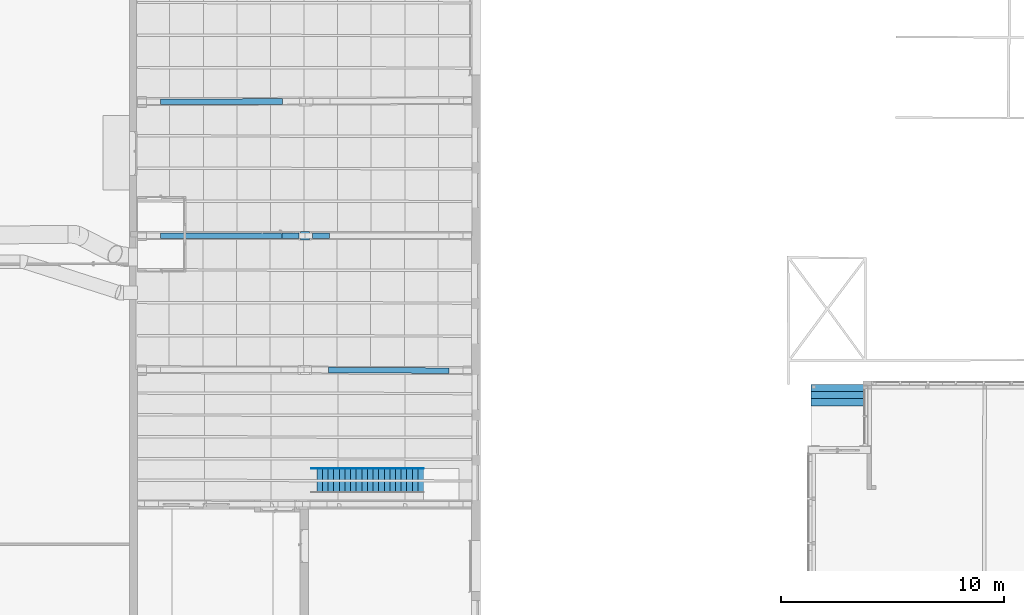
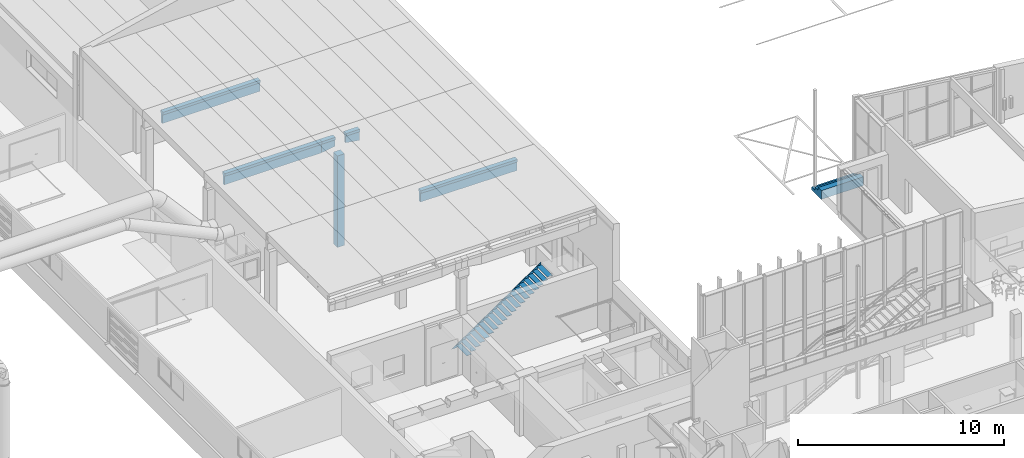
# One storey, part 203 of 301: 9 building element parts, 7 elements without a shape of their own.
"""IFC2X3 building model written with IfcOpenShell, lengths in millimetres."""

import ifcopenshell
import ifcopenshell.guid

model = None  # the IFC model being written
_history = None  # IfcOwnerHistory: only IFC2X3 demands one
_inside = {}  # id of a spatial element -> (the spatial element, [elements in it])
_under = {}  # id of a project, library or spatial element -> (it, [spatial elements below it])
_declared = {}  # id of a project -> (the project, [libraries it declares])
_typed = {}  # id of a type object -> (the type object, [elements of that type])
_made_of = {}  # id of a material, layer set ... -> (it, [elements and type objects made of it])


def new_model(schema):
    """Start an empty IFC model of exactly this schema.

    Asked for "IFC4X3", IfcOpenShell would pick the latest addendum, in which some entities
    have other attributes; the version numbers below select the first issue.
    IFC2X3 requires an IfcOwnerHistory on every rooted entity: one is made here for all.
    """
    global model, _history
    if schema == "IFC4X3":
        model = ifcopenshell.file(schema_version=(4, 3, 0, 0))
    else:
        model = ifcopenshell.file(schema=schema)
    _inside.clear()
    _under.clear()
    _declared.clear()
    _typed.clear()
    _made_of.clear()
    _history = None
    if model.schema == "IFC2X3":
        org = make("IfcOrganization", Name="unknown")
        user = make(
            "IfcPersonAndOrganization",
            ThePerson=make("IfcPerson", FamilyName="unknown"),
            TheOrganization=org,
        )
        app = make(
            "IfcApplication",
            ApplicationDeveloper=org,
            Version="unknown",
            ApplicationFullName="unknown",
            ApplicationIdentifier="unknown",
        )
        _history = make(
            "IfcOwnerHistory",
            OwningUser=user,
            OwningApplication=app,
            ChangeAction="ADDED",
            CreationDate=0,
        )
    return model


def make(cls, **values):
    """One entity of the class cls with the attributes given. An attribute that is None is left unset."""
    return model.create_entity(
        cls, **{name: value for name, value in values.items() if value is not None}
    )


def entity(cls, *values):
    """Any entity or typed value of the class cls, its attributes in the order of the schema. None: left unset."""
    e = model.create_entity(cls)
    for i, value in enumerate(values):
        if value is not None:
            e[i] = value
    return e


def rooted(cls, **values):
    """An entity with a GlobalId (a new one), such as an element, a storey or a relation."""
    return make(cls, GlobalId=ifcopenshell.guid.new(), OwnerHistory=_history, **values)


def si_unit(unit_type, name, prefix=None):
    """IfcSIUnit, for example si_unit("LENGTHUNIT", "METRE", prefix="MILLI")."""
    return make("IfcSIUnit", UnitType=unit_type, Prefix=prefix, Name=name)


def converted_unit(unit_type, name, factor, base, dimensions=None, offset=None):
    """IfcConversionBasedUnit, such as the inch: factor (a typed value) times the base unit."""
    return make(
        "IfcConversionBasedUnit"
        if offset is None
        else "IfcConversionBasedUnitWithOffset",
        ConversionOffset=offset,
        Dimensions=None
        if dimensions is None
        else entity("IfcDimensionalExponents", *dimensions),
        UnitType=unit_type,
        Name=name,
        ConversionFactor=make(
            "IfcMeasureWithUnit", ValueComponent=factor, UnitComponent=base
        ),
    )


def derived_unit(unit_type, elements):
    """IfcDerivedUnit: a product of units, each with its exponent."""
    return make(
        "IfcDerivedUnit",
        Elements=[
            make("IfcDerivedUnitElement", Unit=unit, Exponent=power)
            for unit, power in elements
        ],
        UnitType=unit_type,
    )


def money_unit(currency):
    """IfcMonetaryUnit."""
    return make("IfcMonetaryUnit", Currency=currency)


def assignment(units):
    """IfcUnitAssignment: the units of a project."""
    return None if units is None else make("IfcUnitAssignment", Units=units)


def point(xyz):
    """IfcCartesianPoint."""
    return None if xyz is None else make("IfcCartesianPoint", Coordinates=xyz)


def direction(xyz):
    """IfcDirection."""
    return None if xyz is None else make("IfcDirection", DirectionRatios=xyz)


def frame(location, z_axis=None, x_axis=None):
    """IfcAxis2Placement3D, a coordinate frame: its origin and axes. An axis left out is left unset."""
    return make(
        "IfcAxis2Placement3D",
        Location=point(location),
        Axis=direction(z_axis),
        RefDirection=direction(x_axis),
    )


def origin_with_axes():
    """The frame at (0, 0, 0) with the z axis (0, 0, 1) and the x axis (1, 0, 0) written out."""
    return frame((0.0, 0.0, 0.0), z_axis=(0.0, 0.0, 1.0), x_axis=(1.0, 0.0, 0.0))


def place(relative_to, where):
    """IfcLocalPlacement: puts the frame where relative to a parent placement (None: the world)."""
    return make(
        "IfcLocalPlacement", PlacementRelTo=relative_to, RelativePlacement=where
    )


def context(
    kind, dimensions, precision=None, world=None, true_north=None, identifier=None
):
    """IfcGeometricRepresentationContext, for example the 3D "Model" context."""
    return make(
        "IfcGeometricRepresentationContext",
        ContextIdentifier=identifier,
        ContextType=kind,
        CoordinateSpaceDimension=dimensions,
        Precision=precision,
        WorldCoordinateSystem=world,
        TrueNorth=true_north,
    )


def subcontext(parent, identifier, kind, view, scale=None):
    """IfcGeometricRepresentationSubContext, for example "Body" below "Model"."""
    return make(
        "IfcGeometricRepresentationSubContext",
        ContextIdentifier=identifier,
        ContextType=kind,
        ParentContext=parent,
        TargetScale=scale,
        TargetView=view,
    )


def project(units=None, contexts=None):
    """IfcProject with its units and contexts."""
    return rooted(
        "IfcProject",
        Name="project",
        RepresentationContexts=contexts,
        UnitsInContext=assignment(units),
    )


def spatial(cls, under=None, at=None, **own):
    """A site, building, storey or space (cls), placed at a placement, below another one or the project."""
    s = rooted(cls, ObjectPlacement=at, **own)
    if under is not None:
        _under.setdefault(under.id(), (under, []))[1].append(s)
    return s


def faces_of(points, faces, orient=None, outer=None):
    """IfcFace entities. A face is a list of loops; a loop is a list of indices into points, from 0.

    orient and outer hold one flag for each loop. By default every Orientation is true, the
    first loop of a face is its IfcFaceOuterBound and the others are IfcFaceBound.
    """
    made = []
    for i, loops in enumerate(faces):
        bounds = []
        for j, loop in enumerate(loops):
            is_outer = j == 0 if outer is None else outer[i][j]
            bounds.append(
                make(
                    "IfcFaceOuterBound" if is_outer else "IfcFaceBound",
                    Bound=make("IfcPolyLoop", Polygon=[points[k] for k in loop]),
                    Orientation=True if orient is None else orient[i][j],
                )
            )
        made.append(make("IfcFace", Bounds=bounds))
    return made


def faceted_brep(points, faces, orient=None, outer=None, voids=None):
    """IfcFacetedBrep: a solid bounded by flat faces; with voids (closed shells), ...WithVoids."""
    shared = [point(p) for p in points]
    hull = make("IfcClosedShell", CfsFaces=faces_of(shared, faces, orient, outer))
    if voids is None:
        return make("IfcFacetedBrep", Outer=hull)
    return make(
        "IfcFacetedBrepWithVoids",
        Outer=hull,
        Voids=[
            make(cls, CfsFaces=faces_of(shared, fs, o, b)) for cls, fs, o, b in voids
        ],
    )


def shape(context_of_items, identifier, shape_type, items):
    """IfcShapeRepresentation: the items that make up one representation, for example the "Body"."""
    return make(
        "IfcShapeRepresentation",
        ContextOfItems=context_of_items,
        RepresentationIdentifier=identifier,
        RepresentationType=shape_type,
        Items=items,
    )


def material(Name=None, Category=None):
    """IfcMaterial."""
    return make("IfcMaterial", Name=Name, Category=Category)


def made_of(thing, what):
    """Note that an element or type object is made of a material, layer set ...; save() writes the relation."""
    if what is not None:
        _made_of.setdefault(what.id(), (what, []))[1].append(thing)
    return thing


def type_object(cls, material=None, **own):
    """A type object (cls), such as IfcWallType, which elements share."""
    return made_of(rooted(cls, **own), material)


def element(
    cls,
    number,
    at=None,
    inside=None,
    cuts=None,
    type_object=None,
    material=None,
    context=None,
    identifier="Body",
    shape_type=None,
    held_by="IfcProductDefinitionShape",
    body=None,
    shapes=None,
    **own,
):
    """One element of the class cls, such as IfcWall. Its Tag is "e" and its number.

    at: its placement. inside: the storey or other place that contains it. cuts: it is an
    opening in that element (IfcRelVoidsElement). A single representation is given by context,
    identifier, shape_type and body (its items); several are given by shapes. held_by: the class
    of the entity that holds the representations. save() writes the other relations.
    """
    e = rooted(cls, Tag="e%d" % number, ObjectPlacement=at, **own)
    if body is not None:
        shapes = [shape(context, identifier, shape_type, body)]
    if shapes is not None:
        e.Representation = make(held_by, Representations=shapes)
    if inside is not None:
        _inside.setdefault(inside.id(), (inside, []))[1].append(e)
    if cuts is not None:
        rooted(
            "IfcRelVoidsElement", RelatingBuildingElement=cuts, RelatedOpeningElement=e
        )
    if type_object is not None:
        _typed.setdefault(type_object.id(), (type_object, []))[1].append(e)
    return made_of(e, material)


def aggregate(whole, parts):
    """IfcRelAggregates: a whole, such as a stair, and the parts it consists of."""
    return rooted("IfcRelAggregates", RelatingObject=whole, RelatedObjects=parts)


def save(model, path):
    """Write the relations noted so far, then the file.

    IfcRelAggregates (storeys below a building ...), IfcRelContainedInSpatialStructure (elements
    in a storey), IfcRelDefinesByType, IfcRelAssociatesMaterial and IfcRelDeclares: one each for
    every whole, place, type object, material and project.
    """
    for whole, parts in _under.values():
        aggregate(whole, parts)
    for where, things in _inside.values():
        rooted(
            "IfcRelContainedInSpatialStructure",
            RelatedElements=things,
            RelatingStructure=where,
        )
    for kind, things in _typed.values():
        rooted("IfcRelDefinesByType", RelatedObjects=things, RelatingType=kind)
    for what, things in _made_of.values():
        rooted("IfcRelAssociatesMaterial", RelatedObjects=things, RelatingMaterial=what)
    for by, libraries in _declared.values():
        rooted("IfcRelDeclares", RelatingContext=by, RelatedDefinitions=libraries)
    model.write(path)


model = new_model("IFC2X3")

# Units and contexts
model_context = context("Model", 3, precision=0.01, world=origin_with_axes(), true_north=direction((0.0, 1.0)))
body_context = subcontext(model_context, "Body", "Model", "MODEL_VIEW")
ifc_project = project(units=[si_unit("LENGTHUNIT", "METRE", prefix="MILLI"), si_unit("AREAUNIT", "SQUARE_METRE"), si_unit("VOLUMEUNIT", "CUBIC_METRE"), converted_unit("PLANEANGLEUNIT", "DEGREE", entity("IfcPlaneAngleMeasure", 0.0174532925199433), si_unit("PLANEANGLEUNIT", "RADIAN"), dimensions=[0, 0, 0, 0, 0, 0, 0]), money_unit("EUR"), converted_unit("TIMEUNIT", "Year", entity("IfcTimeMeasure", 31557600.0), si_unit("TIMEUNIT", "SECOND"), dimensions=[0, 0, 1, 0, 0, 0, 0]), si_unit("MASSUNIT", "GRAM", prefix="KILO"), si_unit("THERMODYNAMICTEMPERATUREUNIT", "DEGREE_CELSIUS"), si_unit("LUMINOUSINTENSITYUNIT", "LUMEN"), si_unit("ENERGYUNIT", "JOULE", prefix="MEGA"), derived_unit("THERMALCONDUCTANCEUNIT", [(si_unit("POWERUNIT", "WATT"), 1), (si_unit("LENGTHUNIT", "METRE"), -1), (si_unit("THERMODYNAMICTEMPERATUREUNIT", "KELVIN"), -1)]), derived_unit("SPECIFICHEATCAPACITYUNIT", [(si_unit("ENERGYUNIT", "JOULE"), 1), (si_unit("MASSUNIT", "GRAM", prefix="KILO"), -1), (si_unit("THERMODYNAMICTEMPERATUREUNIT", "KELVIN"), -1)]), derived_unit("MASSDENSITYUNIT", [(si_unit("MASSUNIT", "GRAM", prefix="KILO"), 1), (si_unit("VOLUMEUNIT", "CUBIC_METRE"), -1)])], contexts=[model_context])

# Site, building, storey
site_placement = place(None, frame((0.0, 0.0, 8650.0), z_axis=(0.0, 0.0, 1.0), x_axis=(1.0, 0.0, 0.0)))
site = spatial("IfcSite", under=ifc_project, at=site_placement, Name="43301:001:0844", CompositionType="ELEMENT")
building_placement = place(site_placement, origin_with_axes())
building = spatial("IfcBuilding", under=site, at=building_placement, Name="Kuressaare Ametikooli tuulikute mehaanikute õppekorpus", CompositionType="ELEMENT")
storey_placement = place(building_placement, origin_with_axes())
storey = spatial("IfcBuildingStorey", under=building, at=storey_placement, Name="1.korrus", CompositionType="ELEMENT", Elevation=0.0)

# Stair, building element part
stair_1_placement = place(storey_placement, frame((120808.967590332, 43413.47885131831, -520.0), z_axis=(0.0, 0.0, 1.0), x_axis=(1.0, 0.0, 0.0)))
stair_1 = element("IfcStair", 1, at=stair_1_placement, inside=storey, Name="Trepp", ShapeType="NOTDEFINED")
ifc_material_1 = material(Name="GENEERILINE - KONSTRUKTRIOON")
building_element_part_1_placement = place(stair_1_placement, origin_with_axes())
building_element_part_1 = element("IfcBuildingElementPart", 2, at=building_element_part_1_placement, material=ifc_material_1, Name="GENEERILINE - KONSTRUKTRIOON", context=body_context, shape_type="Brep", body=[
    faceted_brep([(-2360.0, -633.757200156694, 346.6666666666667), (0.0, -633.757200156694, 346.6666666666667), (0.0, -316.878600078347, 346.6666666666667), (-2360.0, -316.878600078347, 346.6666666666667), (-2360.0, -633.757200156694, 520.0), (0.0, -633.757200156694, 520.0), (0.0, 0.0, 0.0), (0.0, 0.0, 173.3333333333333), (0.0, -316.878600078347, 173.3333333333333), (0.0, -950.635800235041, 520.0), (0.0, -950.635800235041, 0.0), (-2360.0, -316.878600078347, 173.3333333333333), (-2360.0, 0.0, 173.3333333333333), (-2360.0, 0.0, 0.0), (-2360.0, -950.635800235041, 0.0), (-2360.0, -950.635800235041, 520.0)], [[[0, 1, 2, 3]], [[1, 0, 4, 5]], [[6, 7, 8, 2, 1, 5, 9, 10]], [[8, 11, 3, 2]], [[0, 3, 11, 12, 13, 14, 15, 4]], [[9, 5, 4, 15]], [[7, 6, 13, 12]], [[11, 8, 7, 12]], [[15, 14, 10, 9]], [[10, 14, 13, 6]]]),
])
aggregate(stair_1, [building_element_part_1])

# Column, building element part
column_type = type_object("IfcColumnType", Name="Various Structures - 3 Segments - 600 x 400 x 5950 (5433+102+415)", PredefinedType="NOTDEFINED")
column_placement = place(storey_placement, frame((95771.85418875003, 50085.18157357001, 130.0), z_axis=(0.0, 0.0, 1.0), x_axis=(1.0, 0.0, 0.0)))
column = element("IfcColumn", 3, at=column_placement, inside=storey, type_object=column_type)
building_element_part_2_placement = place(column_placement, origin_with_axes())
building_element_part_2 = element("IfcBuildingElementPart", 4, at=building_element_part_2_placement, material=ifc_material_1, Name="GENEERILINE - KONSTRUKTRIOON", context=body_context, shape_type="Brep", body=[
    faceted_brep([(-200.0000000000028, -200.0000000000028, 5432.979557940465), (-200.0000000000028, -200.0000000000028, 0.0), (200.0000000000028, -200.0000000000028, 0.0), (200.0000000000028, -200.0000000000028, 5432.979557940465), (-200.0000000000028, 200.0000000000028, 5432.979557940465), (-200.0000000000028, 200.0000000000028, 0.0), (200.0000000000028, 200.0000000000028, 0.0), (200.0000000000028, 200.0000000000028, 5432.979557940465)], [[[0, 1, 2, 3]], [[4, 5, 1, 0]], [[2, 1, 5, 6]], [[3, 2, 6, 7]], [[4, 0, 3, 7]], [[7, 6, 5, 4]]]),
])
aggregate(column, [building_element_part_2])

# Stair, building element parts
stair_2_placement = place(storey_placement, frame((96558.67767333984, 39118.74771118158, 130.0), z_axis=(0.0, 0.0, 1.0), x_axis=(0.0, 1.0, 0.0)))
stair_2 = element("IfcStair", 5, at=stair_2_placement, inside=storey, ShapeType="NOTDEFINED")
building_element_part_3_placement = place(stair_2_placement, origin_with_axes())
building_element_part_3 = element("IfcBuildingElementPart", 6, at=building_element_part_3_placement, material=ifc_material_1, Name="GENEERILINE - KONSTRUKTRIOON", context=body_context, shape_type="Brep", body=[
    faceted_brep([(525.0000000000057, -4531.833648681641, 3237.641958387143), (525.0000000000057, -4531.833648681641, 3431.257362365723), (524.9999999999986, 503.6190566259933, 0.0), (524.9999999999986, 219.4837945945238, 0.0), (535.0000000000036, -4531.833648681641, 3431.257362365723), (535.0000000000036, -4531.833648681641, 3237.641958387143), (534.9999999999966, 503.6190566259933, 0.0), (534.9999999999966, 219.4837945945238, 0.0)], [[[0, 1, 2, 3]], [[4, 1, 0, 5]], [[1, 4, 6, 2]], [[6, 7, 3, 2]], [[5, 0, 3, 7]], [[4, 5, 7, 6]]]),
])
building_element_part_4_placement = place(stair_2_placement, origin_with_axes())
building_element_part_4 = element("IfcBuildingElementPart", 7, at=building_element_part_4_placement, material=ifc_material_1, Name="GENEERILINE - KONSTRUKTRIOON", context=body_context, shape_type="Brep", body=[
    faceted_brep([(524.9999999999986, 251.8464213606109, 156.5628681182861), (-524.9999999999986, 251.8464213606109, 156.5628681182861), (-524.9999999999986, 251.8464213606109, 171.5628681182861), (524.9999999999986, 251.8464213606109, 171.5628681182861), (524.9999999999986, -30.17737644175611, 156.5628681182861), (-524.9999999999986, -30.17737644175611, 156.5628681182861), (-524.9999999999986, -30.17737644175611, 171.5628681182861), (524.9999999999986, -30.17737644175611, 171.5628681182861)], [[[0, 1, 2, 3]], [[0, 4, 5, 1]], [[1, 5, 6, 2]], [[3, 2, 6, 7]], [[4, 0, 3, 7]], [[5, 4, 7, 6]]]),
    faceted_brep([(524.9999999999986, 0.07378609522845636, 328.1257362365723), (-524.9999999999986, 0.07378609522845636, 328.1257362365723), (-524.9999999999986, 0.07378609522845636, 343.1257362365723), (524.9999999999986, 0.07378609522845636, 343.1257362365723), (524.9999999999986, -281.9500117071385, 328.1257362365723), (-524.9999999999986, -281.9500117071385, 328.1257362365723), (-524.9999999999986, -281.9500117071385, 343.1257362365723), (524.9999999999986, -281.9500117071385, 343.1257362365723)], [[[0, 1, 2, 3]], [[0, 4, 5, 1]], [[1, 5, 6, 2]], [[3, 2, 6, 7]], [[4, 0, 3, 7]], [[5, 4, 7, 6]]]),
    faceted_brep([(524.9999999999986, -251.6988491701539, 499.6886043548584), (-524.9999999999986, -251.6988491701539, 499.6886043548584), (-524.9999999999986, -251.6988491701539, 514.6886043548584), (524.9999999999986, -251.6988491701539, 514.6886043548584), (524.9999999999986, -533.7226469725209, 499.6886043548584), (-524.9999999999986, -533.7226469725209, 499.6886043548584), (-524.9999999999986, -533.7226469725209, 514.6886043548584), (524.9999999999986, -533.7226469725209, 514.6886043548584)], [[[0, 1, 2, 3]], [[0, 4, 5, 1]], [[1, 5, 6, 2]], [[3, 2, 6, 7]], [[4, 0, 3, 7]], [[5, 4, 7, 6]]]),
    faceted_brep([(524.9999999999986, -503.4714844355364, 671.2514724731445), (-524.9999999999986, -503.4714844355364, 671.2514724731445), (-524.9999999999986, -503.4714844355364, 686.2514724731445), (524.9999999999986, -503.4714844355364, 686.2514724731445), (524.9999999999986, -785.4952822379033, 671.2514724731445), (-524.9999999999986, -785.4952822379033, 671.2514724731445), (-524.9999999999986, -785.4952822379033, 686.2514724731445), (524.9999999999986, -785.4952822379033, 686.2514724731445)], [[[0, 1, 2, 3]], [[0, 4, 5, 1]], [[1, 5, 6, 2]], [[3, 2, 6, 7]], [[4, 0, 3, 7]], [[5, 4, 7, 6]]]),
    faceted_brep([(524.9999999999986, -755.2441197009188, 842.8143405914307), (-524.9999999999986, -755.2441197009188, 842.8143405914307), (-524.9999999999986, -755.2441197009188, 857.8143405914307), (524.9999999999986, -755.2441197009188, 857.8143405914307), (524.9999999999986, -1037.267917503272, 842.8143405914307), (-524.9999999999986, -1037.267917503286, 842.8143405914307), (-524.9999999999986, -1037.267917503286, 857.8143405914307), (524.9999999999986, -1037.267917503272, 857.8143405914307)], [[[0, 1, 2, 3]], [[0, 4, 5, 1]], [[1, 5, 6, 2]], [[3, 2, 6, 7]], [[4, 0, 3, 7]], [[5, 4, 7, 6]]]),
    faceted_brep([(524.9999999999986, -1007.016754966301, 1014.377208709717), (-524.9999999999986, -1007.016754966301, 1014.377208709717), (-524.9999999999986, -1007.016754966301, 1029.377208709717), (524.9999999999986, -1007.016754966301, 1029.377208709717), (524.9999999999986, -1289.040552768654, 1014.377208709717), (-524.9999999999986, -1289.040552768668, 1014.377208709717), (-524.9999999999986, -1289.040552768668, 1029.377208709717), (524.9999999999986, -1289.040552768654, 1029.377208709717)], [[[0, 1, 2, 3]], [[0, 4, 5, 1]], [[1, 5, 6, 2]], [[3, 2, 6, 7]], [[4, 0, 3, 7]], [[5, 4, 7, 6]]]),
    faceted_brep([(524.9999999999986, -1258.789390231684, 1185.940076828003), (-524.9999999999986, -1258.789390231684, 1185.940076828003), (-524.9999999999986, -1258.789390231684, 1200.940076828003), (524.9999999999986, -1258.789390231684, 1200.940076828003), (525.0000000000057, -1540.813188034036, 1185.940076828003), (-524.9999999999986, -1540.813188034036, 1185.940076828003), (-524.9999999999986, -1540.813188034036, 1200.940076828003), (525.0000000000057, -1540.813188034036, 1200.940076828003)], [[[0, 1, 2, 3]], [[0, 4, 5, 1]], [[1, 5, 6, 2]], [[3, 2, 6, 7]], [[4, 0, 3, 7]], [[5, 4, 7, 6]]]),
    faceted_brep([(525.0000000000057, -1510.562025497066, 1357.50294494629), (-524.9999999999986, -1510.562025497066, 1357.50294494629), (-524.9999999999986, -1510.562025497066, 1372.502944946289), (525.0000000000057, -1510.562025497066, 1372.502944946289), (525.0000000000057, -1792.585823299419, 1357.50294494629), (-524.9999999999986, -1792.585823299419, 1357.50294494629), (-524.9999999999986, -1792.585823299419, 1372.502944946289), (525.0000000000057, -1792.585823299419, 1372.502944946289)], [[[0, 1, 2, 3]], [[0, 4, 5, 1]], [[1, 5, 6, 2]], [[3, 2, 6, 7]], [[4, 0, 3, 7]], [[5, 4, 7, 6]]]),
    faceted_brep([(525.0000000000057, -1762.334660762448, 1529.065813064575), (-524.9999999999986, -1762.334660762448, 1529.065813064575), (-524.9999999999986, -1762.334660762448, 1544.065813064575), (525.0000000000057, -1762.334660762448, 1544.065813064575), (525.0000000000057, -2044.358458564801, 1529.065813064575), (-524.9999999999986, -2044.358458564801, 1529.065813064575), (-524.9999999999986, -2044.358458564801, 1544.065813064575), (525.0000000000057, -2044.358458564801, 1544.065813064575)], [[[0, 1, 2, 3]], [[0, 4, 5, 1]], [[1, 5, 6, 2]], [[3, 2, 6, 7]], [[4, 0, 3, 7]], [[5, 4, 7, 6]]]),
    faceted_brep([(525.0000000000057, -2014.107296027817, 1700.628681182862), (-524.9999999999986, -2014.107296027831, 1700.628681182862), (-524.9999999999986, -2014.107296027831, 1715.628681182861), (525.0000000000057, -2014.107296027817, 1715.628681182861), (525.0000000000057, -2296.131093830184, 1700.628681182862), (-524.9999999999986, -2296.131093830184, 1700.628681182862), (-524.9999999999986, -2296.131093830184, 1715.628681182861), (525.0000000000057, -2296.131093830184, 1715.628681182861)], [[[0, 1, 2, 3]], [[0, 4, 5, 1]], [[1, 5, 6, 2]], [[3, 2, 6, 7]], [[4, 0, 3, 7]], [[5, 4, 7, 6]]]),
    faceted_brep([(525.0000000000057, -2265.879931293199, 1872.191549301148), (-524.9999999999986, -2265.879931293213, 1872.191549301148), (-524.9999999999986, -2265.879931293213, 1887.191549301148), (525.0000000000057, -2265.879931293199, 1887.191549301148), (525.0000000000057, -2547.903729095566, 1872.191549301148), (-524.9999999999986, -2547.903729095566, 1872.191549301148), (-524.9999999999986, -2547.903729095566, 1887.191549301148), (525.0000000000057, -2547.903729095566, 1887.191549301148)], [[[0, 1, 2, 3]], [[0, 4, 5, 1]], [[1, 5, 6, 2]], [[3, 2, 6, 7]], [[4, 0, 3, 7]], [[5, 4, 7, 6]]]),
    faceted_brep([(525.0000000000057, -2517.652566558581, 2043.754417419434), (-524.9999999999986, -2517.652566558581, 2043.754417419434), (-524.9999999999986, -2517.652566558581, 2058.754417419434), (525.0000000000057, -2517.652566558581, 2058.754417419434), (525.0000000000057, -2799.676364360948, 2043.754417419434), (-524.9999999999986, -2799.676364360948, 2043.754417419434), (-524.9999999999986, -2799.676364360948, 2058.754417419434), (525.0000000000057, -2799.676364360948, 2058.754417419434)], [[[0, 1, 2, 3]], [[0, 4, 5, 1]], [[1, 5, 6, 2]], [[3, 2, 6, 7]], [[4, 0, 3, 7]], [[5, 4, 7, 6]]]),
    faceted_brep([(525.0000000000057, -2769.425201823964, 2215.31728553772), (-524.9999999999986, -2769.425201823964, 2215.31728553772), (-524.9999999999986, -2769.425201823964, 2230.31728553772), (525.0000000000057, -2769.425201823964, 2230.31728553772), (525.0000000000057, -3051.448999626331, 2215.31728553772), (-524.9999999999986, -3051.448999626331, 2215.31728553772), (-524.9999999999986, -3051.448999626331, 2230.31728553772), (525.0000000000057, -3051.448999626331, 2230.31728553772)], [[[0, 1, 2, 3]], [[0, 4, 5, 1]], [[1, 5, 6, 2]], [[3, 2, 6, 7]], [[4, 0, 3, 7]], [[5, 4, 7, 6]]]),
    faceted_brep([(525.0000000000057, -3021.197837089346, 2386.880153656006), (-524.9999999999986, -3021.197837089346, 2386.880153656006), (-524.9999999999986, -3021.197837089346, 2401.880153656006), (525.0000000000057, -3021.197837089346, 2401.880153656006), (525.0000000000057, -3303.221634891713, 2386.880153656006), (-524.9999999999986, -3303.221634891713, 2386.880153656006), (-524.9999999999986, -3303.221634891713, 2401.880153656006), (525.0000000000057, -3303.221634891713, 2401.880153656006)], [[[0, 1, 2, 3]], [[0, 4, 5, 1]], [[1, 5, 6, 2]], [[3, 2, 6, 7]], [[4, 0, 3, 7]], [[5, 4, 7, 6]]]),
    faceted_brep([(525.0000000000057, -3272.970472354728, 2558.443021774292), (-524.9999999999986, -3272.970472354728, 2558.443021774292), (-524.9999999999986, -3272.970472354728, 2573.443021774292), (525.0000000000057, -3272.970472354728, 2573.443021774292), (525.0000000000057, -3554.994270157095, 2558.443021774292), (-524.9999999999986, -3554.994270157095, 2558.443021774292), (-524.9999999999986, -3554.994270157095, 2573.443021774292), (525.0000000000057, -3554.994270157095, 2573.443021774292)], [[[0, 1, 2, 3]], [[0, 4, 5, 1]], [[1, 5, 6, 2]], [[3, 2, 6, 7]], [[4, 0, 3, 7]], [[5, 4, 7, 6]]]),
    faceted_brep([(525.0000000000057, -3524.743107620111, 2730.005889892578), (-524.9999999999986, -3524.743107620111, 2730.005889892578), (-524.9999999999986, -3524.743107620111, 2745.005889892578), (525.0000000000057, -3524.743107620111, 2745.005889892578), (525.0000000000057, -3806.766905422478, 2730.005889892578), (-524.9999999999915, -3806.766905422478, 2730.005889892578), (-524.9999999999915, -3806.766905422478, 2745.005889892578), (525.0000000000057, -3806.766905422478, 2745.005889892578)], [[[0, 1, 2, 3]], [[0, 4, 5, 1]], [[1, 5, 6, 2]], [[3, 2, 6, 7]], [[4, 0, 3, 7]], [[5, 4, 7, 6]]]),
    faceted_brep([(525.0000000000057, -3776.515742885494, 2901.568758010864), (-524.9999999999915, -3776.515742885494, 2901.568758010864), (-524.9999999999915, -3776.515742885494, 2916.568758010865), (525.0000000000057, -3776.515742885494, 2916.568758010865), (525.0000000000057, -4058.539540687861, 2901.568758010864), (-524.9999999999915, -4058.539540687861, 2901.568758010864), (-524.9999999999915, -4058.539540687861, 2916.568758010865), (525.0000000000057, -4058.539540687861, 2916.568758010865)], [[[0, 1, 2, 3]], [[0, 4, 5, 1]], [[1, 5, 6, 2]], [[3, 2, 6, 7]], [[4, 0, 3, 7]], [[5, 4, 7, 6]]]),
    faceted_brep([(525.0000000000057, -4028.288378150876, 3073.131626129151), (-524.9999999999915, -4028.288378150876, 3073.131626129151), (-524.9999999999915, -4028.288378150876, 3088.131626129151), (525.0000000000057, -4028.288378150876, 3088.131626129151), (525.0000000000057, -4310.312175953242, 3073.131626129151), (-524.9999999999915, -4310.312175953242, 3073.131626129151), (-524.9999999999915, -4310.312175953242, 3088.131626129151), (525.0000000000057, -4310.312175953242, 3088.131626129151)], [[[0, 1, 2, 3]], [[0, 4, 5, 1]], [[1, 5, 6, 2]], [[3, 2, 6, 7]], [[4, 0, 3, 7]], [[5, 4, 7, 6]]]),
    faceted_brep([(525.0000000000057, -4280.061013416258, 3244.694494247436), (-524.9999999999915, -4280.061013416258, 3244.694494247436), (-524.9999999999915, -4280.061013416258, 3259.694494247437), (525.0000000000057, -4280.061013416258, 3259.694494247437), (525.0000000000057, -4531.833648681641, 3244.694494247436), (525.0000000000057, -4562.084811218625, 3244.694494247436), (-524.9999999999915, -4562.084811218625, 3244.694494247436), (-524.9999999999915, -4531.833648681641, 3244.694494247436), (-524.9999999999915, -4531.833648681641, 3259.694494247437), (-524.9999999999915, -4562.084811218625, 3259.694494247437), (525.0000000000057, -4562.084811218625, 3259.694494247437), (525.0000000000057, -4531.833648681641, 3259.694494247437)], [[[0, 1, 2, 3]], [[0, 4, 5, 6, 7, 1]], [[1, 7, 8, 2]], [[3, 2, 8, 9, 10, 11]], [[4, 0, 3, 11]], [[5, 4, 11, 10]], [[6, 5, 10, 9]], [[7, 6, 9, 8]]]),
])
aggregate(stair_2, [building_element_part_3, building_element_part_4])

# Beam, building element part
beam_type_1 = type_object("IfcBeamType", Name="Various Structures - 5 Segments - 250 x 700 x 7499 (338+766+5404+631+361)", PredefinedType="NOTDEFINED")
beam_1_placement = place(storey_placement, frame((95728.83666082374, 44073.08587643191, 6660.0), z_axis=(0.0, 0.0, 1.0), x_axis=(-0.005544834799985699, -0.9999846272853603, 0.0)))
beam_1 = element("IfcBeam", 8, at=beam_1_placement, inside=storey, type_object=beam_type_1)
ifc_material_2 = material(Name="Raudbetoon")
building_element_part_5_placement = place(beam_1_placement, origin_with_axes())
building_element_part_5 = element("IfcBuildingElementPart", 9, at=building_element_part_5_placement, material=ifc_material_2, Name="Raudbetoon", context=body_context, shape_type="Brep", body=[
    faceted_brep([(-125.0055545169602, 1103.687342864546, 0.0), (-99.91032148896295, 1103.687342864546, 0.0), (-111.5554368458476, 6507.404536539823, 0.0), (-125.0055545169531, 6507.404536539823, 0.0), (119.2487189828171, 1103.687342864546, -4.176709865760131), (-99.91030884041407, 1103.687342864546, -4.176709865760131), (-125.0052826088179, 1103.687342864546, -150.0000000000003), (-65.00000000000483, 1103.687342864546, -164.4012678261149), (-65.00000000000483, 1103.687342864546, -700.0000000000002), (64.99999999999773, 1103.687342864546, -700.0000000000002), (64.99999999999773, 1103.687342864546, -164.4012678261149), (125.0052826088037, 1103.687342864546, -150.0000000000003), (125.0055545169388, 1103.687342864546, 0.0), (119.2487316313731, 1103.687342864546, 0.0), (-111.5554241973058, 6507.404536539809, -4.176709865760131), (107.6036036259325, 6507.404536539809, -4.176709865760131), (107.6036162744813, 6507.404536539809, 0.0), (125.0055545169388, 6507.404536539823, 0.0), (125.0052826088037, 6507.404536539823, -150.0000000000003), (64.99999999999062, 6507.404536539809, -164.4012678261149), (64.99999999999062, 6507.404536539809, -700.0000000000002), (-65.00000000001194, 6507.404536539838, -700.0000000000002), (-65.00000000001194, 6507.404536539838, -164.4012678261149), (-125.0052826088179, 6507.404536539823, -150.0000000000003)], [[[0, 1, 2, 3]], [[4, 5, 1, 0, 6, 7, 8, 9, 10, 11, 12, 13]], [[5, 14, 2, 1]], [[14, 15, 16, 17, 18, 19, 20, 21, 22, 23, 3, 2]], [[6, 0, 3, 23]], [[4, 15, 14, 5]], [[7, 6, 23, 22]], [[8, 7, 22, 21]], [[9, 8, 21, 20]], [[10, 9, 20, 19]], [[11, 10, 19, 18]], [[12, 11, 18, 17]], [[17, 16, 13, 12]], [[4, 13, 16, 15]]]),
])
aggregate(beam_1, [building_element_part_5])

beam_type_2 = type_object("IfcBeamType", Name="Various Structures - 5 Segments - 250 x 700 x 7456 (338+766+5361+631+361)", PredefinedType="NOTDEFINED")
beam_2_placement = place(storey_placement, frame((95771.85418875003, 50085.18157357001, 6660.0), z_axis=(0.0, 0.0, 1.0), x_axis=(2.364312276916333e-05, -0.9999999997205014, 0.0)))
beam_2 = element("IfcBeam", 10, at=beam_2_placement, inside=storey, type_object=beam_type_2)
building_element_part_6_placement = place(beam_2_placement, origin_with_axes())
building_element_part_6 = element("IfcBuildingElementPart", 11, at=building_element_part_6_placement, material=ifc_material_2, Name="Raudbetoon", context=body_context, shape_type="Brep", body=[
    faceted_brep([(-125.0049071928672, 912.2047113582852, 0.0), (-125.0051574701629, 529.2394483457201, 0.0), (-125.0052826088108, 337.7568168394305, 0.0), (-111.719623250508, 337.7568168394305, 0.0), (-111.4876734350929, 1103.687342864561, 0.0), (-125.0047820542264, 1103.687342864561, 0.0), (-125.0048765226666, 720.7220798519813, -75.00000000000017), (-125.0051369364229, 337.7568168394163, -75.00000000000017), (125.0052826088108, 337.7568168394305, 0.0), (107.4389360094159, 337.7568168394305, 0.0), (107.4389208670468, 337.7568168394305, -5.000209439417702), (-111.7196081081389, 337.7568168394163, -5.000209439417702), (-125.004991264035, 337.7568168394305, -150.0000000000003), (-64.99999999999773, 337.7568168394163, -164.4011979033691), (-64.99999999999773, 337.7568168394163, -579.8231697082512), (64.99999999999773, 337.7568168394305, -579.8231697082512), (64.99999999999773, 337.7568168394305, -164.4011979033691), (125.004991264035, 337.7568168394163, -150.0000000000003), (125.0051369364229, 337.7568168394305, -75.00000000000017), (-111.4876582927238, 1103.687342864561, -5.000209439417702), (107.6708706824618, 1103.687342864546, -5.000209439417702), (107.670885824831, 1103.687342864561, 0.0), (125.0047820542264, 1103.687342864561, 0.0), (125.004616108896, 1103.687342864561, -75.00000000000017), (125.0044501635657, 1103.687342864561, -150.0000000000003), (64.99999999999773, 1103.687342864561, -164.4010680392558), (64.99999999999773, 1103.687342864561, -699.9999999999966), (-65.00000000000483, 1103.687342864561, -699.9999999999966), (-65.00000000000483, 1103.687342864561, -164.4010680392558), (-125.0044501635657, 1103.687342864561, -150.0000000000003), (-125.004616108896, 1103.687342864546, -75.00000000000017), (-125.0048559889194, 529.2394483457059, -150.0000000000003), (-125.0045854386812, 912.204711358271, -150.0000000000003), (125.0051574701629, 529.2394483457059, 0.0), (125.0049071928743, 912.2047113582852, 0.0), (125.0045854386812, 912.204711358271, -150.0000000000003), (125.0048559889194, 529.2394483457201, -150.0000000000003), (125.0048765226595, 720.7220798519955, -75.00000000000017)], [[[0, 1, 2, 3, 4, 5]], [[6, 1, 0]], [[7, 2, 1]], [[8, 9, 10, 11, 3, 2, 7, 12, 13, 14, 15, 16, 17, 18]], [[4, 3, 11, 19]], [[5, 4, 19, 20, 21, 22, 23, 24, 25, 26, 27, 28, 29, 30]], [[30, 0, 5]], [[7, 1, 6, 31]], [[6, 0, 30, 32]], [[33, 34, 22, 21, 9, 8]], [[21, 20, 10, 9]], [[19, 11, 10, 20]], [[31, 12, 7]], [[31, 32, 29, 28, 13, 12]], [[14, 13, 28, 27]], [[26, 15, 14, 27]], [[16, 15, 26, 25]], [[17, 16, 25, 24, 35, 36]], [[18, 17, 36]], [[33, 8, 18]], [[22, 34, 23]], [[23, 35, 24]], [[29, 32, 30]], [[32, 31, 6]], [[34, 33, 37]], [[37, 36, 35]], [[18, 36, 37, 33]], [[37, 35, 23, 34]]]),
])
aggregate(beam_2, [building_element_part_6])

# Beam, building element parts
beam_type_3 = type_object("IfcBeamType", Name="Various Structures - 5 Segments - 250 x 700 x 7513 (262+767+5443+621+419)", PredefinedType="NOTDEFINED")
beam_3_placement = place(storey_placement, frame((95771.85418875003, 50085.18157357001, 6660.0), z_axis=(0.0, 0.0, 1.0), x_axis=(0.0006351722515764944, 0.9999997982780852, 0.0)))
beam_3 = element("IfcBeam", 12, at=beam_3_placement, inside=storey, type_object=beam_type_3)
building_element_part_7_placement = place(beam_3_placement, origin_with_axes())
building_element_part_7 = element("IfcBuildingElementPart", 13, at=building_element_part_7_placement, material=ifc_material_2, Name="Raudbetoon", context=body_context, shape_type="Brep", body=[
    faceted_brep([(-64.99999999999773, 261.7777961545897, -579.8231697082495), (-64.99999999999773, 262.906567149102, -580.0000000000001), (65.00000000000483, 262.906567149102, -580.0000000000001), (64.99999999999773, 261.7777961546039, -579.8231697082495), (-65.00000000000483, 299.9587743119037, -585.8045012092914), (-65.00000000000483, 299.9587743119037, -580.0000000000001), (-64.99999999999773, 261.7777961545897, -164.4011979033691), (-64.99999999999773, 1028.909484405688, -164.4010680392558), (-64.99999999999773, 1028.909484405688, -699.9999999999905), (64.99999999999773, 300.0413467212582, -580.0000000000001), (64.99999999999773, 300.0413467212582, -585.817436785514), (64.99999999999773, 1028.909484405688, -699.9999999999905), (64.99999999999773, 1028.909484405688, -164.4010680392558), (64.99999999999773, 261.7777961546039, -164.4011979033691), (-107.4298416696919, 261.7777961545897, 0.0), (-125.0052826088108, 261.7777961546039, 0.0), (-125.0051369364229, 261.7777961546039, -75.00000000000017), (-125.0049912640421, 261.7777961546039, -150.0000000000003), (125.004991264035, 261.7777961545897, -150.0000000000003), (125.0051369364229, 261.7777961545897, -75.00000000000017), (125.0052826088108, 261.7777961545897, 0.0), (111.7287214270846, 261.7777961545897, 0.0), (111.7287062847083, 261.7777961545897, -5.000209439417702), (-107.4298265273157, 261.7777961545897, -5.000209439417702), (-125.0048559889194, 453.5607182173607, -150.0000000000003), (-125.0045854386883, 837.1265623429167, -150.0000000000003), (-125.0044501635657, 1028.909484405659, -150.0000000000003), (-125.0046161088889, 1028.909484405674, -75.00000000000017), (-125.0047820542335, 1028.909484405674, 0.0), (-107.7029263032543, 1028.909484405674, 0.0), (-107.7029111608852, 1028.909484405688, -5.000209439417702), (111.4556216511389, 1028.909484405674, -5.000209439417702), (111.455636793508, 1028.909484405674, 0.0), (125.0047820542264, 1028.909484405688, 0.0), (125.004616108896, 1028.909484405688, -75.00000000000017), (125.0044501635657, 1028.909484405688, -150.0000000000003), (125.0045854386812, 837.1265623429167, -150.0000000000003), (125.0048559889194, 453.5607182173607, -150.0000000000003), (-125.0049071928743, 837.1265623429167, 0.0), (-125.0051574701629, 453.5607182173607, 0.0), (125.00515747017, 453.5607182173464, 0.0), (125.0049071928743, 837.1265623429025, 0.0), (-125.0048765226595, 645.3436402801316, -75.00000000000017), (125.0048765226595, 645.3436402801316, -75.00000000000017)], [[[0, 1, 2, 3]], [[4, 5, 1, 0, 6, 7, 8]], [[5, 9, 2, 1]], [[2, 9, 10, 11, 12, 13, 3]], [[14, 15, 16, 17, 6, 0, 3, 13, 18, 19, 20, 21, 22, 23]], [[4, 10, 9, 5]], [[24, 25, 26, 7, 6, 17]], [[8, 7, 26, 27, 28, 29, 30, 31, 32, 33, 34, 35, 12, 11]], [[11, 10, 4, 8]], [[18, 13, 12, 35, 36, 37]], [[15, 14, 29, 28, 38, 39]], [[39, 16, 15]], [[17, 16, 24]], [[18, 37, 19]], [[19, 40, 20]], [[40, 41, 33, 32, 21, 20]], [[22, 21, 32, 31]], [[23, 22, 31, 30]], [[14, 23, 30, 29]], [[24, 42, 25]], [[26, 25, 27]], [[27, 38, 28]], [[33, 41, 34]], [[34, 36, 35]], [[36, 43, 37]], [[38, 42, 39]], [[39, 42, 24, 16]], [[40, 19, 37, 43]], [[40, 43, 41]], [[42, 38, 27, 25]], [[43, 36, 34, 41]]]),
])
building_element_part_8_placement = place(beam_3_placement, origin_with_axes())
building_element_part_8 = element("IfcBuildingElementPart", 14, at=building_element_part_8_placement, material=ifc_material_2, Name="Raudbetoon", context=body_context, shape_type="Brep", body=[
    faceted_brep([(-64.99999999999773, 1028.909484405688, -164.4012678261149), (-65.00000000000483, 6472.408602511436, -164.4012678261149), (-65.00000000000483, 6472.408602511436, -700.0000000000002), (-64.99999999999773, 1028.909484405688, -700.0000000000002), (-125.0052826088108, 1028.909484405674, -150.0000000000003), (-125.0052826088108, 6472.40860251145, -150.0000000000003), (-125.0055545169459, 6472.40860251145, 0.0), (-109.6407108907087, 6472.408602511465, 0.0), (-109.6406957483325, 6472.408602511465, -5.000209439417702), (109.5178370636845, 6472.40860251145, -5.000209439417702), (109.5178522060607, 6472.40860251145, 0.0), (125.0055545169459, 6472.408602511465, 0.0), (125.0052826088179, 6472.408602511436, -150.0000000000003), (64.99999999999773, 6472.40860251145, -164.4012678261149), (64.99999999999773, 6472.40860251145, -700.0000000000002), (64.95290785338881, 6472.40860251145, -700.0000000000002), (-54.11110526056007, 6472.408602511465, -699.9853799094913), (-54.11110526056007, 6472.408602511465, -700.0000000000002), (-54.11105722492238, 6472.332976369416, -700.0000000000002), (64.99999999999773, 1028.909484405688, -700.0000000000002), (-107.7029263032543, 1028.909484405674, 0.0), (-125.0055545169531, 1028.909484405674, 0.0), (64.99999999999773, 1028.909484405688, -164.4012678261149), (125.0052826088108, 1028.909484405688, -150.0000000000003), (125.0055545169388, 1028.909484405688, 0.0), (111.455636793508, 1028.909484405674, 0.0), (111.4556216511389, 1028.909484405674, -5.000209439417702), (-107.7029111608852, 1028.909484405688, -5.000209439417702)], [[[0, 1, 2, 3]], [[4, 5, 1, 0]], [[1, 5, 6, 7, 8, 9, 10, 11, 12, 13, 14, 15, 16, 17, 2]], [[3, 2, 17, 18, 15, 14, 19]], [[20, 21, 4, 0, 3, 19, 22, 23, 24, 25, 26, 27]], [[21, 6, 5, 4]], [[20, 7, 6, 21]], [[27, 8, 7, 20]], [[26, 9, 8, 27]], [[25, 10, 9, 26]], [[24, 11, 10, 25]], [[23, 12, 11, 24]], [[22, 13, 12, 23]], [[19, 14, 13, 22]], [[15, 18, 16]], [[16, 18, 17]]]),
])
aggregate(beam_3, [building_element_part_7, building_element_part_8])

# Beam, building element part
beam_type_4 = type_object("IfcBeamType", Name="Various Structures - 5 Segments - 250 x 700 x 7535 (262+767+5466+621+419)", PredefinedType="NOTDEFINED")
beam_4_placement = place(storey_placement, frame((95793.5361313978, 56107.49431488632, 6659.999999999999), z_axis=(0.0, 0.0, 1.0), x_axis=(-0.001731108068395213, 0.9999985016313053, 0.0)))
beam_4 = element("IfcBeam", 15, at=beam_4_placement, inside=storey, type_object=beam_type_4)
building_element_part_9_placement = place(beam_4_placement, origin_with_axes())
building_element_part_9 = element("IfcBuildingElementPart", 16, at=building_element_part_9_placement, material=ifc_material_2, Name="Raudbetoon", context=body_context, shape_type="Brep", body=[
    faceted_brep([(121.7413461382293, 1028.909484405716, 0.0), (121.7413309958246, 1028.909484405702, -5.000214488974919), (-97.41757085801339, 1028.909484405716, -5.000214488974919), (-97.41758600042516, 1028.909484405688, 0.0), (-125.0055545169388, 1028.909484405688, 0.0), (-125.0052826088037, 1028.909484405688, -150.0000000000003), (-64.99999999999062, 1028.909484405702, -164.4012678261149), (-64.99999999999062, 1028.909484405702, -700.0000000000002), (65.00000000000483, 1028.909484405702, -700.0000000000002), (65.00000000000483, 1028.909484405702, -164.4012678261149), (125.0052826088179, 1028.909484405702, -150.0000000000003), (125.0055545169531, 1028.909484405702, 0.0), (111.5238305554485, 6494.663678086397, -5.000214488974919), (111.5238456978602, 6494.663678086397, 0.0), (-107.6350712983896, 6494.663678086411, -5.000214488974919), (-107.6350864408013, 6494.663678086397, 0.0), (-125.0055545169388, 6494.663678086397, 0.0), (-125.0052826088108, 6494.663678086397, -150.0000000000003), (-64.99999999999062, 6494.663678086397, -164.4012678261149), (-64.99999999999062, 6494.663678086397, -700.0000000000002), (65.00000000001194, 6494.663678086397, -700.0000000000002), (65.00000000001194, 6494.663678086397, -164.4012678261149), (125.0052826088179, 6494.663678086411, -150.0000000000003), (125.0055545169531, 6494.663678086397, 0.0)], [[[0, 1, 2, 3, 4, 5, 6, 7, 8, 9, 10, 11]], [[12, 1, 0, 13]], [[14, 2, 1, 12]], [[14, 15, 3, 2]], [[4, 3, 15, 16]], [[5, 4, 16, 17]], [[6, 5, 17, 18]], [[7, 6, 18, 19]], [[8, 7, 19, 20]], [[9, 8, 20, 21]], [[10, 9, 21, 22]], [[11, 10, 22, 23]], [[23, 13, 0, 11]], [[14, 12, 13, 23, 22, 21, 20, 19, 18, 17, 16, 15]]]),
])
aggregate(beam_4, [building_element_part_9])

save(model, "model.ifc")
